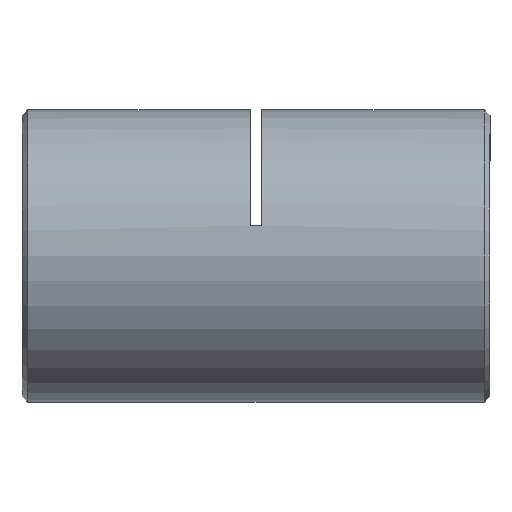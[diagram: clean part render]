
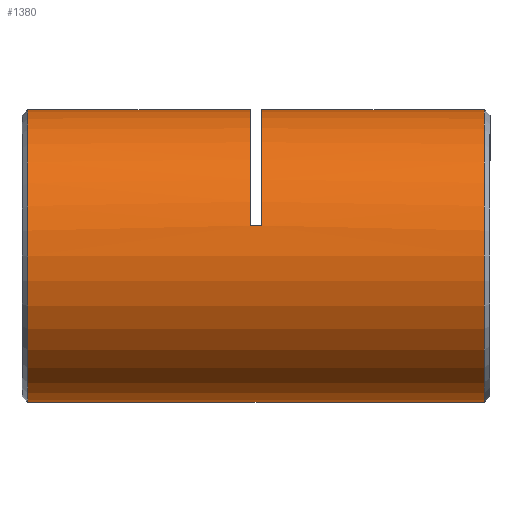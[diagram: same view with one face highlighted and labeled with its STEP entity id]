
A CAD part, left-side view. The second image highlights one B-rep face of the part: STEP entity #1380.
In plain terms, the highlighted cylindrical face has radius 12.5 mm (diameter 25 mm), a partial arc.
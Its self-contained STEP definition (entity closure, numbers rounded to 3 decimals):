
#32 = VECTOR ( 'NONE', #3423, 1000. ) ;
#107 = VERTEX_POINT ( 'NONE', #2200 ) ;
#307 = CARTESIAN_POINT ( 'NONE',  ( 0., 0.75, 0. ) ) ;
#373 = AXIS2_PLACEMENT_3D ( 'NONE', #1928, #4486, #3191 ) ;
#400 = DIRECTION ( 'NONE',  ( 0., -1., 0. ) ) ;
#409 = EDGE_CURVE ( 'NONE', #5201, #798, #4852, .T. ) ;
#464 = CARTESIAN_POINT ( 'NONE',  ( 0., 40.5, 0. ) ) ;
#567 = EDGE_CURVE ( 'NONE', #107, #2581, #2255, .T. ) ;
#574 = CARTESIAN_POINT ( 'NONE',  ( 0., 0.75, -12.5 ) ) ;
#648 = AXIS2_PLACEMENT_3D ( 'NONE', #464, #2691, #4388 ) ;
#707 = DIRECTION ( 'NONE',  ( 0., 1., 0. ) ) ;
#798 = VERTEX_POINT ( 'NONE', #2127 ) ;
#1106 = CIRCLE ( 'NONE', #4707, 12.5 ) ;
#1112 = ORIENTED_EDGE ( 'NONE', *, *, #5416, .F. ) ;
#1175 = VERTEX_POINT ( 'NONE', #1972 ) ;
#1235 = CARTESIAN_POINT ( 'NONE',  ( 0., 39.75, 0. ) ) ;
#1238 = EDGE_LOOP ( 'NONE', ( #1926, #4444, #5558, #1644, #1112, #2187, #2158, #1433 ) ) ;
#1380 = ADVANCED_FACE ( 'NONE', ( #4825 ), #5636, .T. ) ;
#1433 = ORIENTED_EDGE ( 'NONE', *, *, #4267, .T. ) ;
#1554 = EDGE_CURVE ( 'NONE', #5201, #4961, #3405, .T. ) ;
#1643 = DIRECTION ( 'NONE',  ( 0., 0., -1. ) ) ;
#1644 = ORIENTED_EDGE ( 'NONE', *, *, #4080, .T. ) ;
#1762 = DIRECTION ( 'NONE',  ( 0., 1., 0. ) ) ;
#1926 = ORIENTED_EDGE ( 'NONE', *, *, #567, .F. ) ;
#1928 = CARTESIAN_POINT ( 'NONE',  ( 0., 19.75, 0. ) ) ;
#1972 = CARTESIAN_POINT ( 'NONE',  ( 0., 39.75, -12.5 ) ) ;
#2060 = DIRECTION ( 'NONE',  ( 0., 0., 1. ) ) ;
#2127 = CARTESIAN_POINT ( 'NONE',  ( -12.226, 20.75, 2.604 ) ) ;
#2144 = DIRECTION ( 'NONE',  ( 0., 0., 1. ) ) ;
#2158 = ORIENTED_EDGE ( 'NONE', *, *, #409, .T. ) ;
#2187 = ORIENTED_EDGE ( 'NONE', *, *, #1554, .F. ) ;
#2200 = CARTESIAN_POINT ( 'NONE',  ( 0., 39.75, 12.5 ) ) ;
#2255 = LINE ( 'NONE', #3216, #3417 ) ;
#2339 = CARTESIAN_POINT ( 'NONE',  ( -12.226, 19.75, 2.604 ) ) ;
#2351 = CARTESIAN_POINT ( 'NONE',  ( 0., 0.75, 12.5 ) ) ;
#2457 = EDGE_CURVE ( 'NONE', #107, #1175, #1106, .T. ) ;
#2526 = CARTESIAN_POINT ( 'NONE',  ( 0., 20.75, 12.5 ) ) ;
#2581 = VERTEX_POINT ( 'NONE', #2526 ) ;
#2691 = DIRECTION ( 'NONE',  ( 0., -1., 0. ) ) ;
#2868 = VECTOR ( 'NONE', #5237, 1000. ) ;
#3099 = VECTOR ( 'NONE', #400, 1000. ) ;
#3111 = CARTESIAN_POINT ( 'NONE',  ( 0., 20.75, 0. ) ) ;
#3191 = DIRECTION ( 'NONE',  ( 0., 0., 1. ) ) ;
#3216 = CARTESIAN_POINT ( 'NONE',  ( 0., 40.5, 12.5 ) ) ;
#3405 = CIRCLE ( 'NONE', #373, 12.5 ) ;
#3417 = VECTOR ( 'NONE', #4991, 1000. ) ;
#3423 = DIRECTION ( 'NONE',  ( 0., -1., 0. ) ) ;
#3482 = CARTESIAN_POINT ( 'NONE',  ( 0., 40.5, 12.5 ) ) ;
#3916 = CARTESIAN_POINT ( 'NONE',  ( 0., 19.75, 12.5 ) ) ;
#4080 = EDGE_CURVE ( 'NONE', #5117, #4744, #5539, .T. ) ;
#4267 = EDGE_CURVE ( 'NONE', #798, #2581, #4721, .T. ) ;
#4335 = DIRECTION ( 'NONE',  ( 0., -1., 0. ) ) ;
#4376 = LINE ( 'NONE', #5567, #32 ) ;
#4388 = DIRECTION ( 'NONE',  ( 0., 0., -1. ) ) ;
#4413 = CARTESIAN_POINT ( 'NONE',  ( -12.226, 20.25, 2.604 ) ) ;
#4444 = ORIENTED_EDGE ( 'NONE', *, *, #2457, .T. ) ;
#4486 = DIRECTION ( 'NONE',  ( 0., 1., 0. ) ) ;
#4707 = AXIS2_PLACEMENT_3D ( 'NONE', #1235, #4335, #1643 ) ;
#4721 = CIRCLE ( 'NONE', #5100, 12.5 ) ;
#4744 = VERTEX_POINT ( 'NONE', #2351 ) ;
#4825 = FACE_OUTER_BOUND ( 'NONE', #1238, .T. ) ;
#4852 = LINE ( 'NONE', #4413, #2868 ) ;
#4961 = VERTEX_POINT ( 'NONE', #3916 ) ;
#4991 = DIRECTION ( 'NONE',  ( 0., -1., 0. ) ) ;
#5003 = AXIS2_PLACEMENT_3D ( 'NONE', #307, #707, #2060 ) ;
#5100 = AXIS2_PLACEMENT_3D ( 'NONE', #3111, #1762, #2144 ) ;
#5117 = VERTEX_POINT ( 'NONE', #574 ) ;
#5201 = VERTEX_POINT ( 'NONE', #2339 ) ;
#5237 = DIRECTION ( 'NONE',  ( 0., 1., 0. ) ) ;
#5416 = EDGE_CURVE ( 'NONE', #4961, #4744, #5623, .T. ) ;
#5502 = EDGE_CURVE ( 'NONE', #1175, #5117, #4376, .T. ) ;
#5539 = CIRCLE ( 'NONE', #5003, 12.5 ) ;
#5558 = ORIENTED_EDGE ( 'NONE', *, *, #5502, .T. ) ;
#5567 = CARTESIAN_POINT ( 'NONE',  ( 0., 40.5, -12.5 ) ) ;
#5623 = LINE ( 'NONE', #3482, #3099 ) ;
#5636 = CYLINDRICAL_SURFACE ( 'NONE', #648, 12.5 ) ;
